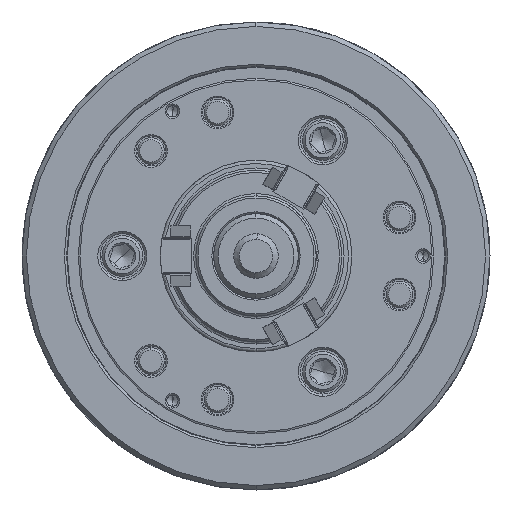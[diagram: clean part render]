
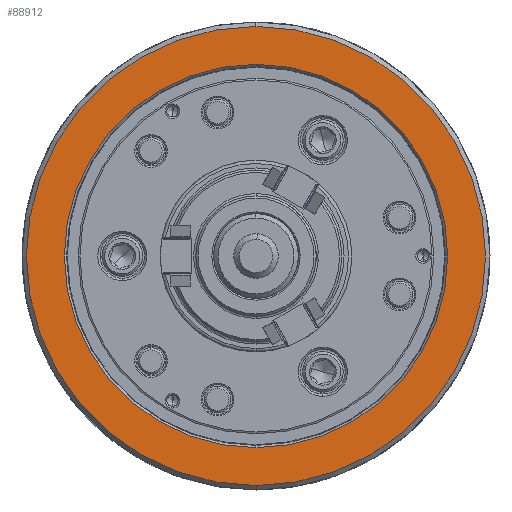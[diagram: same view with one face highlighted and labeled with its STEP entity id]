
A CAD part, left-side view. The second image highlights one B-rep face of the part: STEP entity #88912.
In plain terms, the highlighted planar face has unit normal (-1, 0, 0).
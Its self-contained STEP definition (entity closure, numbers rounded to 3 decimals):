
#9847 = CARTESIAN_POINT ( 'NONE',  ( -85., -103., 0. ) ) ;
#10157 = DIRECTION ( 'NONE',  ( 0., 0., -1. ) ) ;
#10425 = VERTEX_POINT ( 'NONE', #62645 ) ;
#13540 = CARTESIAN_POINT ( 'NONE',  ( -85., 0., 0. ) ) ;
#22011 = EDGE_CURVE ( 'NONE', #107294, #10425, #55467, .T. ) ;
#23498 = CARTESIAN_POINT ( 'NONE',  ( -85., 0., -103. ) ) ;
#24425 = EDGE_CURVE ( 'NONE', #36980, #93582, #89612, .T. ) ;
#27148 = FACE_OUTER_BOUND ( 'NONE', #69376, .T. ) ;
#27620 = CARTESIAN_POINT ( 'NONE',  ( -85., 0., 0. ) ) ;
#30754 = EDGE_CURVE ( 'NONE', #10425, #107294, #75324, .T. ) ;
#34916 = DIRECTION ( 'NONE',  ( 0., 0., -1. ) ) ;
#36980 = VERTEX_POINT ( 'NONE', #85660 ) ;
#37189 = DIRECTION ( 'NONE',  ( 1., 0., 0. ) ) ;
#37602 = AXIS2_PLACEMENT_3D ( 'NONE', #13540, #105317, #80711 ) ;
#46313 = AXIS2_PLACEMENT_3D ( 'NONE', #108057, #37189, #100222 ) ;
#48978 = ORIENTED_EDGE ( 'NONE', *, *, #22011, .T. ) ;
#52395 = PLANE ( 'NONE',  #95919 ) ;
#53166 = ORIENTED_EDGE ( 'NONE', *, *, #30754, .T. ) ;
#53805 = CARTESIAN_POINT ( 'NONE',  ( -85., 0., 0. ) ) ;
#55467 = CIRCLE ( 'NONE', #37602, 86. ) ;
#58347 = EDGE_LOOP ( 'NONE', ( #48978, #53166 ) ) ;
#60558 = DIRECTION ( 'NONE',  ( 1., 0., 0. ) ) ;
#62645 = CARTESIAN_POINT ( 'NONE',  ( -85., 0., -86. ) ) ;
#62817 = ORIENTED_EDGE ( 'NONE', *, *, #79964, .F. ) ;
#69376 = EDGE_LOOP ( 'NONE', ( #62817, #90177 ) ) ;
#69736 = DIRECTION ( 'NONE',  ( 1., 0., 0. ) ) ;
#71934 = CARTESIAN_POINT ( 'NONE',  ( -85., 0., 86. ) ) ;
#75324 = CIRCLE ( 'NONE', #78926, 86. ) ;
#78923 = AXIS2_PLACEMENT_3D ( 'NONE', #53805, #60558, #10157 ) ;
#78926 = AXIS2_PLACEMENT_3D ( 'NONE', #27620, #86943, #34916 ) ;
#79964 = EDGE_CURVE ( 'NONE', #93582, #36980, #90935, .T. ) ;
#80711 = DIRECTION ( 'NONE',  ( 0., 0., -1. ) ) ;
#85660 = CARTESIAN_POINT ( 'NONE',  ( -85., 0., 103. ) ) ;
#86479 = FACE_BOUND ( 'NONE', #58347, .T. ) ;
#86943 = DIRECTION ( 'NONE',  ( 1., 0., 0. ) ) ;
#88912 = ADVANCED_FACE ( 'NONE', ( #27148, #86479 ), #52395, .F. ) ;
#89612 = CIRCLE ( 'NONE', #78923, 103. ) ;
#90177 = ORIENTED_EDGE ( 'NONE', *, *, #24425, .F. ) ;
#90935 = CIRCLE ( 'NONE', #46313, 103. ) ;
#93582 = VERTEX_POINT ( 'NONE', #23498 ) ;
#95919 = AXIS2_PLACEMENT_3D ( 'NONE', #9847, #69736, #103834 ) ;
#100222 = DIRECTION ( 'NONE',  ( 0., 0., -1. ) ) ;
#103834 = DIRECTION ( 'NONE',  ( 0., 0., -1. ) ) ;
#105317 = DIRECTION ( 'NONE',  ( 1., 0., 0. ) ) ;
#107294 = VERTEX_POINT ( 'NONE', #71934 ) ;
#108057 = CARTESIAN_POINT ( 'NONE',  ( -85., 0., 0. ) ) ;
